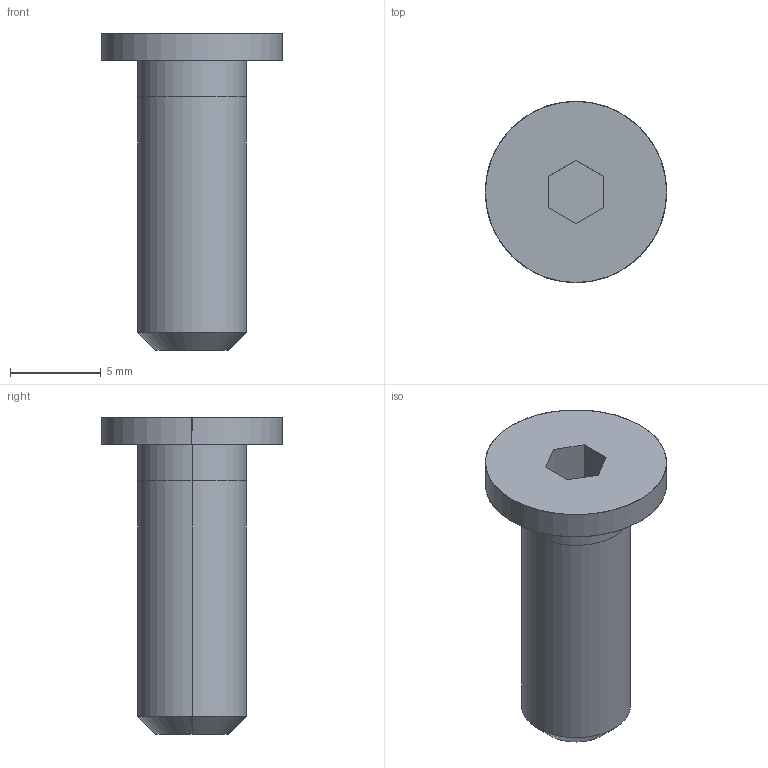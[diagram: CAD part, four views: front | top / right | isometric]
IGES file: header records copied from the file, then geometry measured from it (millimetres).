
Global section: file name: E:\UnigraphicsGraphicData\MISUMI_PRESS-PARTS\IGES\3d_cbss6-16_03507_r00.igs; native system: NX V5.0; preprocessor: UGS NX IGES V5.0; author: MISUMI; date: 20110105.160202; units: millimetre
Bounding box: 10 x 10 x 17.5 mm (x, y, z)
Surface area: 535.5 mm2 (no closed solid volume)
Topology: 0 solids, 0 shells, 18 faces, 100 edges, 100 vertices
Faces by surface type: bspline 18
